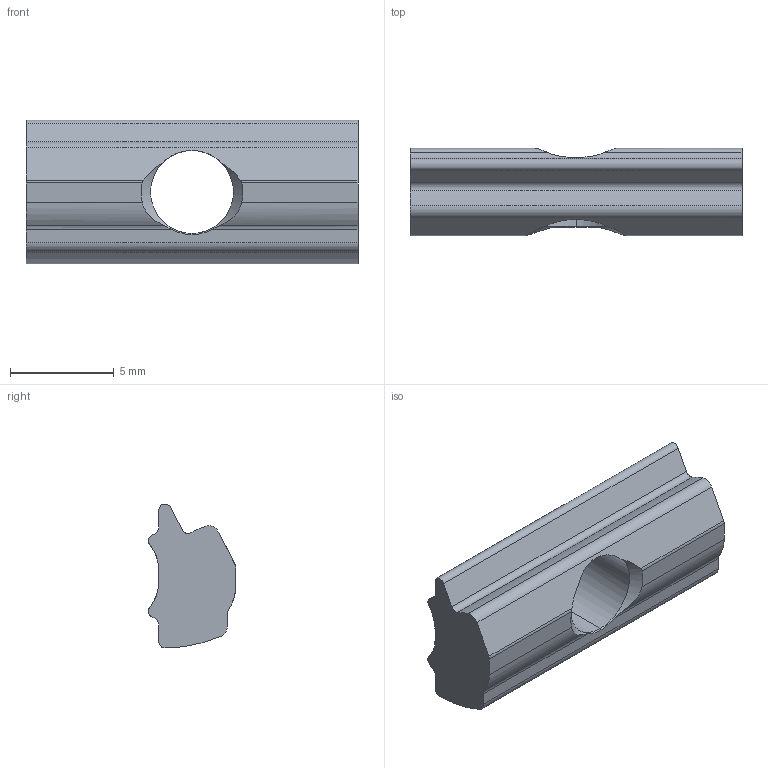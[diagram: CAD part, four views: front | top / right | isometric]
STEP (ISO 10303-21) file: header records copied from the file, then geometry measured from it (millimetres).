
FILE_DESCRIPTION((''),'2;1');
FILE_NAME('E:\端から修正\NAMT-04-3.stp','2013-11-07T16:48:04',('AMS8'),(''),'Autodesk Inventor 2008','Autodesk Inventor 2008','');
FILE_SCHEMA(('AUTOMOTIVE_DESIGN { 1 0 10303 214 1 1 1 1 }'));
Length unit declared in the file: millimetre
Products named in the file (2): DEFAULT; DEFAULTA
Assembly tree (1 placements, depth 2):
  DEFAULT
    DEFAULTA
Bounding box: 16 x 4.2 x 6.94 mm (x, y, z)
Volume: 281.5 mm3; surface area: 370 mm2
Topology: 1 solids, 1 shells, 40 faces, 128 edges, 88 vertices
Faces by surface type: cylinder 25, plane 11, cone 4
Entity records: 1581 total; most frequent: CARTESIAN_POINT 412, ORIENTED_EDGE 256, DIRECTION 223, EDGE_CURVE 128, VERTEX_POINT 88, AXIS2_PLACEMENT_3D 85, VECTOR 53, LINE 53
